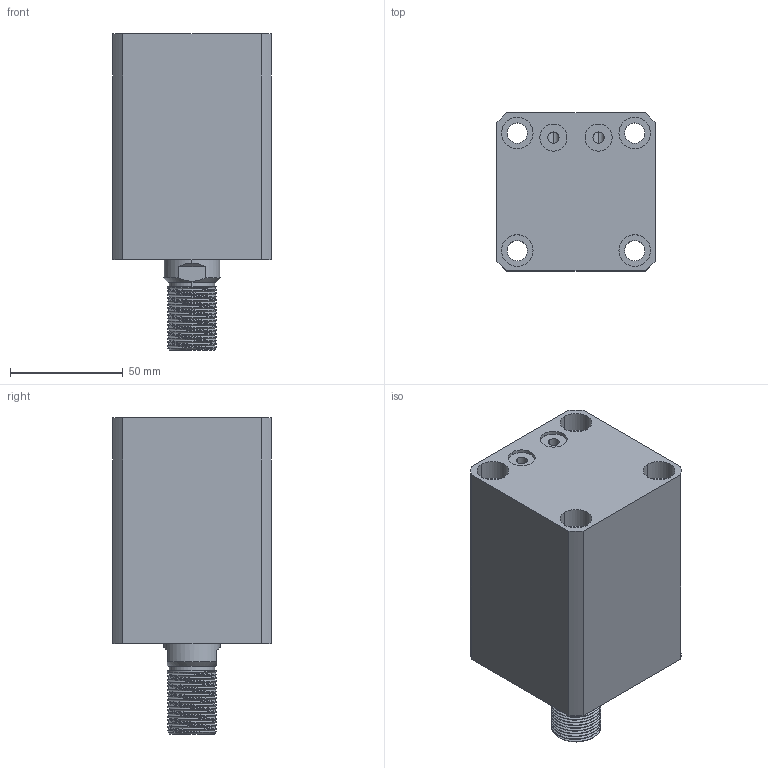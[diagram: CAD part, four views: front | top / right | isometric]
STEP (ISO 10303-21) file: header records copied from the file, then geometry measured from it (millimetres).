
FILE_DESCRIPTION (( 'STEP AP214' ), '1' );
FILE_NAME ('chtb-sdmb40x45w_asm.STEP', '2018-06-06T09:03:13', ( 'Windows' ), ( 'Microsoft' ), 'SwSTEP 2.0', 'SolidWorks 2015', '' );
FILE_SCHEMA (( 'AUTOMOTIVE_DESIGN' ));
Length unit declared in the file: millimetre
Products named in the file (4): CHTB-SDMB40X45NBT; CHTB-SD40X45WHSG; CHTB-SD40QG; chtb-sdmb40x45w_asm
Assembly tree (3 placements, depth 2):
  chtb-sdmb40x45w_asm
    CHTB-SD40QG
    CHTB-SD40X45WHSG
    CHTB-SDMB40X45NBT
Bounding box: 70 x 70 x 140 mm (x, y, z)
Volume: 429062.9 mm3; surface area: 88695.4 mm2
Topology: 3 solids, 4 shells, 201 faces, 539 edges, 359 vertices
Faces by surface type: cylinder 122, plane 38, bspline 16, torus 14, cone 11
Entity records: 13455 total; most frequent: CARTESIAN_POINT 8586, ORIENTED_EDGE 1066, DIRECTION 904, EDGE_CURVE 533, AXIS2_PLACEMENT_3D 374, VERTEX_POINT 359, EDGE_LOOP 238, FACE_OUTER_BOUND 201
